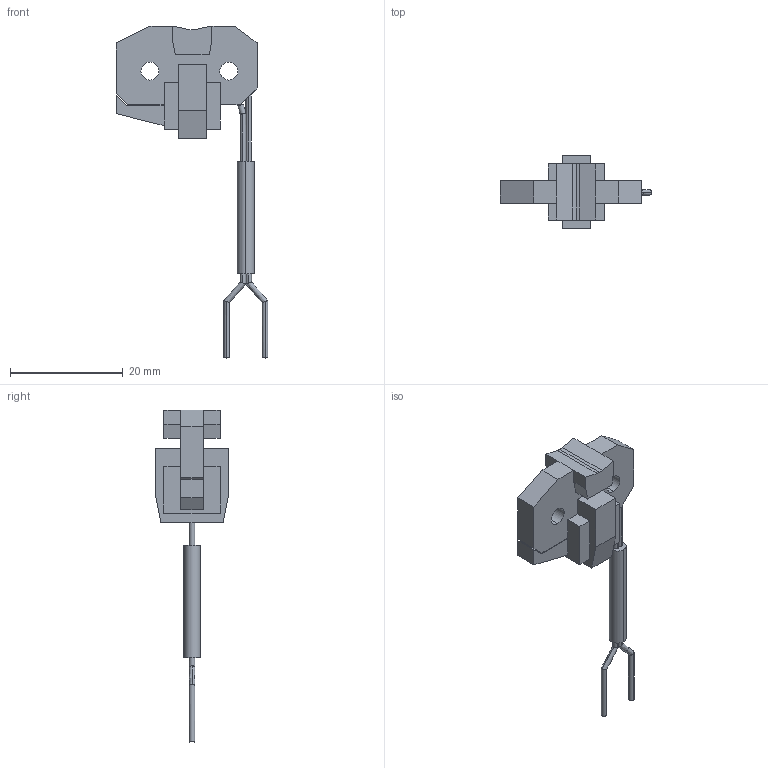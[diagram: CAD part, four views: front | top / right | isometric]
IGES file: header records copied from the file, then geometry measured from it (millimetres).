
Start section: SolidWorks IGES FILE using analytic representation for surfaces
Global section: file name: \\Intra-srv04\開発データ\CAD_Data\CAD委員会\3D電子ｶﾀﾛｸﾞ\製品カタログ（新）\0_IGES\FD-F4.IGS,41HSolidWorks 2004; native system: by SolidWorks Corporation; preprocessor: Version 5.3; author: YK0651; date: 050909.000049; units: millimetre
Bounding box: 26.91 x 13 x 58.91 mm (x, y, z)
Volume: 2726 mm3; surface area: 2130.8 mm2
Topology: 2 solids, 2 shells, 85 faces, 224 edges, 148 vertices
Faces by surface type: plane 59, revolution 26
